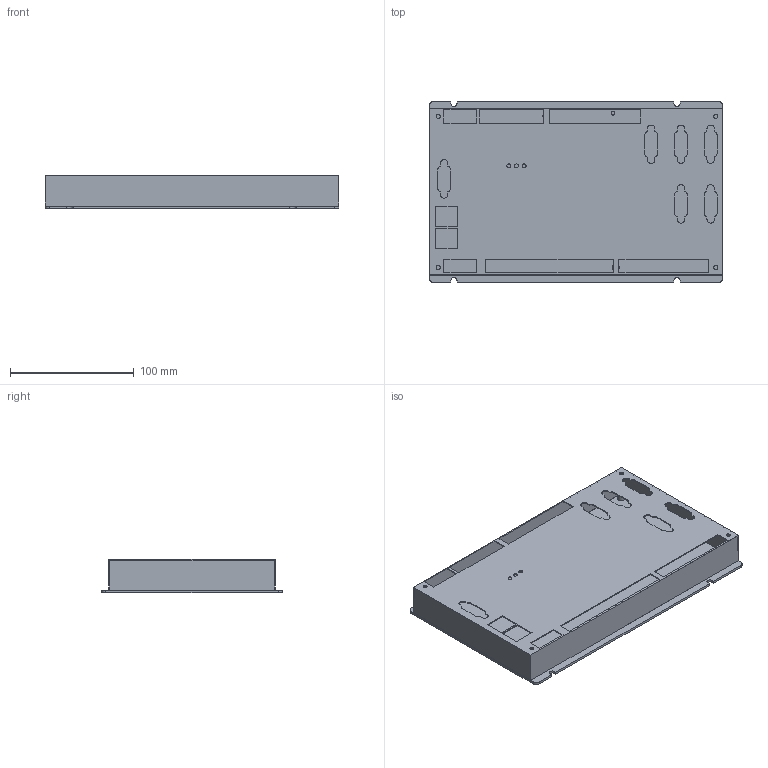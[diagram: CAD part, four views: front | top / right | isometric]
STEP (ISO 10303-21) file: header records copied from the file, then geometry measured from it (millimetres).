
FILE_DESCRIPTION (( 'STEP AP203' ), '1' );
FILE_NAME ('力为控制技术-3D模型-《ECI2064》.STEP', '2024-12-30T02:14:50', ( '' ), ( '' ), 'SwSTEP 2.0', 'SolidWorks 2020', '' );
FILE_SCHEMA (( 'CONFIG_CONTROL_DESIGN' ));
Length unit declared in the file: millimetre
Products named in the file (1): 力为控制技术-3D模型-《ECI2064》
Bounding box: 237 x 146 x 27.2 mm (x, y, z)
Volume: 106644.1 mm3; surface area: 161759.1 mm2
Topology: 2 solids, 2 shells, 179 faces, 504 edges, 336 vertices
Faces by surface type: plane 103, cylinder 76
Entity records: 5969 total; most frequent: CARTESIAN_POINT 1020, DIRECTION 1016, ORIENTED_EDGE 1008, EDGE_CURVE 504, LINE 352, VECTOR 352, VERTEX_POINT 336, AXIS2_PLACEMENT_3D 332
